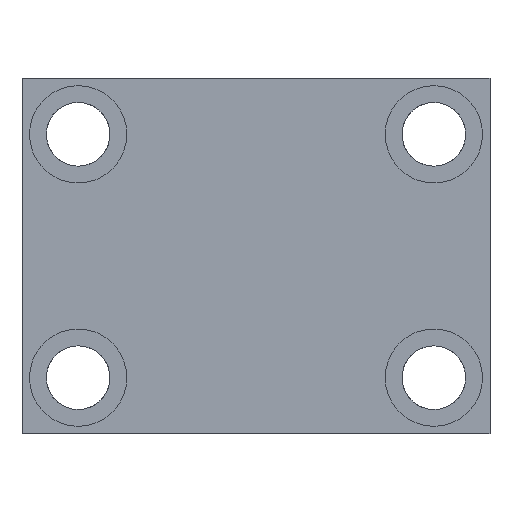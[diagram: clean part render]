
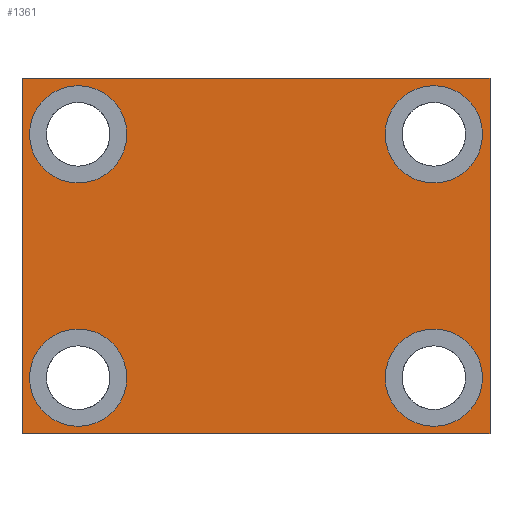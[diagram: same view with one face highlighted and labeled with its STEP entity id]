
A CAD part, front view. The second image highlights one B-rep face of the part: STEP entity #1361.
In plain terms, the highlighted planar face has unit normal (0, -1, 0).
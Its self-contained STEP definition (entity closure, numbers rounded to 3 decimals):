
#1 = ORIENTED_EDGE ( 'NONE', *, *, #1366, .F. ) ;
#90 = EDGE_CURVE ( 'NONE', #155, #1070, #2906, .T. ) ;
#139 = EDGE_CURVE ( 'NONE', #2651, #1964, #3466, .T. ) ;
#155 = VERTEX_POINT ( 'NONE', #1264 ) ;
#161 = EDGE_CURVE ( 'NONE', #2377, #2047, #471, .T. ) ;
#196 = DIRECTION ( 'NONE',  ( -1., 0., 0. ) ) ;
#241 = FACE_BOUND ( 'NONE', #898, .T. ) ;
#287 = DIRECTION ( 'NONE',  ( 0., -1., 0. ) ) ;
#305 = AXIS2_PLACEMENT_3D ( 'NONE', #2028, #397, #940 ) ;
#321 = FACE_BOUND ( 'NONE', #2592, .T. ) ;
#332 = CIRCLE ( 'NONE', #1201, 13. ) ;
#389 = ORIENTED_EDGE ( 'NONE', *, *, #706, .F. ) ;
#397 = DIRECTION ( 'NONE',  ( 0., -1., 0. ) ) ;
#420 = CIRCLE ( 'NONE', #1020, 13. ) ;
#429 = DIRECTION ( 'NONE',  ( 0., 0., -1. ) ) ;
#448 = ORIENTED_EDGE ( 'NONE', *, *, #2646, .F. ) ;
#471 = LINE ( 'NONE', #1538, #2559 ) ;
#594 = CARTESIAN_POINT ( 'NONE',  ( 47.5, 0., -45.5 ) ) ;
#635 = PLANE ( 'NONE',  #1520 ) ;
#659 = CARTESIAN_POINT ( 'NONE',  ( -62.5, 0., -47.5 ) ) ;
#679 = EDGE_CURVE ( 'NONE', #2529, #1056, #1044, .T. ) ;
#706 = EDGE_CURVE ( 'NONE', #1056, #2529, #332, .T. ) ;
#728 = CARTESIAN_POINT ( 'NONE',  ( -47.5, 0., -32.5 ) ) ;
#752 = CARTESIAN_POINT ( 'NONE',  ( -62.5, 0., 47.5 ) ) ;
#835 = AXIS2_PLACEMENT_3D ( 'NONE', #2890, #2919, #960 ) ;
#881 = DIRECTION ( 'NONE',  ( 0., -1., 0. ) ) ;
#898 = EDGE_LOOP ( 'NONE', ( #1124, #1062 ) ) ;
#900 = DIRECTION ( 'NONE',  ( 0., 0., 1. ) ) ;
#940 = DIRECTION ( 'NONE',  ( 0., 0., -1. ) ) ;
#945 = CARTESIAN_POINT ( 'NONE',  ( 62.5, 0., -47.5 ) ) ;
#956 = FACE_BOUND ( 'NONE', #2049, .T. ) ;
#960 = DIRECTION ( 'NONE',  ( 0., 0., -1. ) ) ;
#984 = DIRECTION ( 'NONE',  ( 0., 0., -1. ) ) ;
#1020 = AXIS2_PLACEMENT_3D ( 'NONE', #1176, #1108, #3023 ) ;
#1023 = ORIENTED_EDGE ( 'NONE', *, *, #90, .F. ) ;
#1044 = CIRCLE ( 'NONE', #835, 13. ) ;
#1056 = VERTEX_POINT ( 'NONE', #2090 ) ;
#1062 = ORIENTED_EDGE ( 'NONE', *, *, #3121, .F. ) ;
#1070 = VERTEX_POINT ( 'NONE', #3514 ) ;
#1108 = DIRECTION ( 'NONE',  ( 0., -1., 0. ) ) ;
#1124 = ORIENTED_EDGE ( 'NONE', *, *, #139, .F. ) ;
#1157 = ORIENTED_EDGE ( 'NONE', *, *, #1684, .F. ) ;
#1176 = CARTESIAN_POINT ( 'NONE',  ( 47.5, 0., 32.5 ) ) ;
#1201 = AXIS2_PLACEMENT_3D ( 'NONE', #3411, #3195, #3168 ) ;
#1213 = DIRECTION ( 'NONE',  ( 0., 0., -1. ) ) ;
#1264 = CARTESIAN_POINT ( 'NONE',  ( -47.5, 0., 45.5 ) ) ;
#1292 = CIRCLE ( 'NONE', #3104, 13. ) ;
#1361 = ADVANCED_FACE ( 'NONE', ( #241, #321, #2406, #956, #3053 ), #635, .F. ) ;
#1366 = EDGE_CURVE ( 'NONE', #3536, #2377, #1584, .T. ) ;
#1374 = ORIENTED_EDGE ( 'NONE', *, *, #2329, .F. ) ;
#1392 = DIRECTION ( 'NONE',  ( 1., 0., 0. ) ) ;
#1418 = LINE ( 'NONE', #1898, #2800 ) ;
#1432 = CARTESIAN_POINT ( 'NONE',  ( 47.5, 0., 45.5 ) ) ;
#1520 = AXIS2_PLACEMENT_3D ( 'NONE', #1749, #2297, #900 ) ;
#1534 = ORIENTED_EDGE ( 'NONE', *, *, #679, .F. ) ;
#1538 = CARTESIAN_POINT ( 'NONE',  ( -62.5, 0., -47.5 ) ) ;
#1539 = VERTEX_POINT ( 'NONE', #752 ) ;
#1548 = VECTOR ( 'NONE', #2682, 1000. ) ;
#1584 = LINE ( 'NONE', #945, #2960 ) ;
#1654 = VERTEX_POINT ( 'NONE', #1959 ) ;
#1670 = VERTEX_POINT ( 'NONE', #1432 ) ;
#1684 = EDGE_CURVE ( 'NONE', #1070, #155, #1292, .T. ) ;
#1732 = CARTESIAN_POINT ( 'NONE',  ( 47.5, 0., 32.5 ) ) ;
#1749 = CARTESIAN_POINT ( 'NONE',  ( 0., 0., 0. ) ) ;
#1815 = CARTESIAN_POINT ( 'NONE',  ( -47.5, 0., -45.5 ) ) ;
#1898 = CARTESIAN_POINT ( 'NONE',  ( -62.5, 0., 47.5 ) ) ;
#1959 = CARTESIAN_POINT ( 'NONE',  ( 47.5, 0., 19.5 ) ) ;
#1964 = VERTEX_POINT ( 'NONE', #2729 ) ;
#2028 = CARTESIAN_POINT ( 'NONE',  ( -47.5, 0., 32.5 ) ) ;
#2047 = VERTEX_POINT ( 'NONE', #2629 ) ;
#2049 = EDGE_LOOP ( 'NONE', ( #1157, #1023 ) ) ;
#2090 = CARTESIAN_POINT ( 'NONE',  ( 47.5, 0., -19.5 ) ) ;
#2117 = CIRCLE ( 'NONE', #2372, 13. ) ;
#2297 = DIRECTION ( 'NONE',  ( 0., 1., 0. ) ) ;
#2329 = EDGE_CURVE ( 'NONE', #2047, #1539, #3003, .T. ) ;
#2372 = AXIS2_PLACEMENT_3D ( 'NONE', #1732, #3120, #1213 ) ;
#2377 = VERTEX_POINT ( 'NONE', #2780 ) ;
#2400 = DIRECTION ( 'NONE',  ( 0., 0., -1. ) ) ;
#2406 = FACE_BOUND ( 'NONE', #3094, .T. ) ;
#2516 = CARTESIAN_POINT ( 'NONE',  ( -47.5, 0., -32.5 ) ) ;
#2529 = VERTEX_POINT ( 'NONE', #594 ) ;
#2559 = VECTOR ( 'NONE', #196, 1000. ) ;
#2570 = ORIENTED_EDGE ( 'NONE', *, *, #2940, .F. ) ;
#2592 = EDGE_LOOP ( 'NONE', ( #1534, #389 ) ) ;
#2629 = CARTESIAN_POINT ( 'NONE',  ( -62.5, 0., -47.5 ) ) ;
#2636 = DIRECTION ( 'NONE',  ( 0., -1., 0. ) ) ;
#2646 = EDGE_CURVE ( 'NONE', #1539, #3536, #1418, .T. ) ;
#2651 = VERTEX_POINT ( 'NONE', #1815 ) ;
#2682 = DIRECTION ( 'NONE',  ( 0., 0., 1. ) ) ;
#2729 = CARTESIAN_POINT ( 'NONE',  ( -47.5, 0., -19.5 ) ) ;
#2744 = AXIS2_PLACEMENT_3D ( 'NONE', #2516, #881, #2793 ) ;
#2780 = CARTESIAN_POINT ( 'NONE',  ( 62.5, 0., -47.5 ) ) ;
#2793 = DIRECTION ( 'NONE',  ( 0., 0., -1. ) ) ;
#2800 = VECTOR ( 'NONE', #1392, 1000. ) ;
#2826 = ORIENTED_EDGE ( 'NONE', *, *, #3047, .F. ) ;
#2834 = EDGE_LOOP ( 'NONE', ( #1, #448, #1374, #3480 ) ) ;
#2872 = AXIS2_PLACEMENT_3D ( 'NONE', #728, #2636, #984 ) ;
#2890 = CARTESIAN_POINT ( 'NONE',  ( 47.5, 0., -32.5 ) ) ;
#2906 = CIRCLE ( 'NONE', #305, 13. ) ;
#2919 = DIRECTION ( 'NONE',  ( 0., -1., 0. ) ) ;
#2920 = CARTESIAN_POINT ( 'NONE',  ( -47.5, 0., 32.5 ) ) ;
#2940 = EDGE_CURVE ( 'NONE', #1670, #1654, #2117, .T. ) ;
#2960 = VECTOR ( 'NONE', #429, 1000. ) ;
#2975 = CIRCLE ( 'NONE', #2744, 13. ) ;
#3003 = LINE ( 'NONE', #659, #1548 ) ;
#3023 = DIRECTION ( 'NONE',  ( 0., 0., -1. ) ) ;
#3047 = EDGE_CURVE ( 'NONE', #1654, #1670, #420, .T. ) ;
#3053 = FACE_OUTER_BOUND ( 'NONE', #2834, .T. ) ;
#3094 = EDGE_LOOP ( 'NONE', ( #2826, #2570 ) ) ;
#3104 = AXIS2_PLACEMENT_3D ( 'NONE', #2920, #287, #2400 ) ;
#3120 = DIRECTION ( 'NONE',  ( 0., -1., 0. ) ) ;
#3121 = EDGE_CURVE ( 'NONE', #1964, #2651, #2975, .T. ) ;
#3168 = DIRECTION ( 'NONE',  ( 0., 0., -1. ) ) ;
#3195 = DIRECTION ( 'NONE',  ( 0., -1., 0. ) ) ;
#3240 = CARTESIAN_POINT ( 'NONE',  ( 62.5, 0., 47.5 ) ) ;
#3411 = CARTESIAN_POINT ( 'NONE',  ( 47.5, 0., -32.5 ) ) ;
#3466 = CIRCLE ( 'NONE', #2872, 13. ) ;
#3480 = ORIENTED_EDGE ( 'NONE', *, *, #161, .F. ) ;
#3514 = CARTESIAN_POINT ( 'NONE',  ( -47.5, 0., 19.5 ) ) ;
#3536 = VERTEX_POINT ( 'NONE', #3240 ) ;
